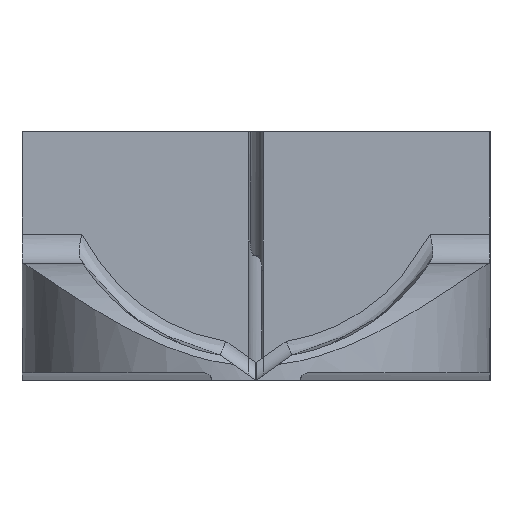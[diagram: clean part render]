
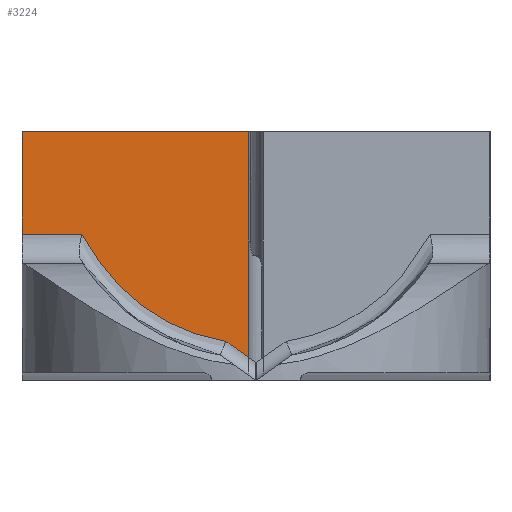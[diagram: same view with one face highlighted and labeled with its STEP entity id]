
A CAD part, left-side view. The second image highlights one B-rep face of the part: STEP entity #3224.
In plain terms, the highlighted planar face has unit normal (1, 0, 0).
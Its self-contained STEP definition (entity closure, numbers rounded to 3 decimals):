
#17 = CARTESIAN_POINT ( 'NONE',  ( -49., -2.2, 1.7 ) ) ;
#132 = EDGE_CURVE ( 'NONE', #5312, #2388, #5518, .T. ) ;
#259 = CARTESIAN_POINT ( 'NONE',  ( -49., 2.058, -14.338 ) ) ;
#364 = CARTESIAN_POINT ( 'NONE',  ( -49., 6.076, -13.041 ) ) ;
#387 = CARTESIAN_POINT ( 'NONE',  ( -49., 10.575, -9.062 ) ) ;
#403 = CARTESIAN_POINT ( 'NONE',  ( -49., 11.392, -7.811 ) ) ;
#631 = ORIENTED_EDGE ( 'NONE', *, *, #3230, .T. ) ;
#658 = LINE ( 'NONE', #2469, #4783 ) ;
#881 = CARTESIAN_POINT ( 'NONE',  ( -49., 8.258, -11.554 ) ) ;
#902 = CARTESIAN_POINT ( 'NONE',  ( -49., 10.649, -8.957 ) ) ;
#926 = CARTESIAN_POINT ( 'NONE',  ( -49., 11.557, -7.549 ) ) ;
#973 = EDGE_CURVE ( 'NONE', #1426, #2654, #6237, .T. ) ;
#979 = VERTEX_POINT ( 'NONE', #2004 ) ;
#1075 = DIRECTION ( 'NONE',  ( 1., 0., 0. ) ) ;
#1257 = EDGE_CURVE ( 'NONE', #979, #2654, #3271, .T. ) ;
#1381 = CARTESIAN_POINT ( 'NONE',  ( -49., 2.755, -14.205 ) ) ;
#1407 = CARTESIAN_POINT ( 'NONE',  ( -49., 9.41, -10.474 ) ) ;
#1426 = VERTEX_POINT ( 'NONE', #4905 ) ;
#1431 = CARTESIAN_POINT ( 'NONE',  ( -49., 10.887, -8.604 ) ) ;
#1451 = CARTESIAN_POINT ( 'NONE',  ( -49., 11.654, -7.397 ) ) ;
#1585 = CARTESIAN_POINT ( 'NONE',  ( -49., 0.5, -15.429 ) ) ;
#1709 = CARTESIAN_POINT ( 'NONE',  ( -49., 16., -7. ) ) ;
#1869 = CARTESIAN_POINT ( 'NONE',  ( -49., 0., 0. ) ) ;
#1920 = CARTESIAN_POINT ( 'NONE',  ( -49., 2.817, -14.191 ) ) ;
#1944 = CARTESIAN_POINT ( 'NONE',  ( -49., 9.938, -9.885 ) ) ;
#1960 = CARTESIAN_POINT ( 'NONE',  ( -49., 10.992, -8.441 ) ) ;
#1982 = CARTESIAN_POINT ( 'NONE',  ( -49., 11.678, -7.36 ) ) ;
#2004 = CARTESIAN_POINT ( 'NONE',  ( -49., 0.5, -15.429 ) ) ;
#2091 = CARTESIAN_POINT ( 'NONE',  ( -49., 0.5, -22.45 ) ) ;
#2102 = PLANE ( 'NONE',  #6508 ) ;
#2200 = VERTEX_POINT ( 'NONE', #6517 ) ;
#2311 = VECTOR ( 'NONE', #4528, 1000. ) ;
#2388 = VERTEX_POINT ( 'NONE', #1709 ) ;
#2395 = EDGE_CURVE ( 'NONE', #1426, #2388, #658, .T. ) ;
#2454 = CARTESIAN_POINT ( 'NONE',  ( -49., 2.833, -14.188 ) ) ;
#2469 = CARTESIAN_POINT ( 'NONE',  ( -49., 16., -6.94 ) ) ;
#2481 = CARTESIAN_POINT ( 'NONE',  ( -49., 10.312, -9.417 ) ) ;
#2506 = CARTESIAN_POINT ( 'NONE',  ( -49., 11.018, -8.401 ) ) ;
#2524 = CARTESIAN_POINT ( 'NONE',  ( -49., 11.684, -7.351 ) ) ;
#2552 = CARTESIAN_POINT ( 'NONE',  ( -49., 11.906, -7. ) ) ;
#2632 = ORIENTED_EDGE ( 'NONE', *, *, #4638, .T. ) ;
#2654 = VERTEX_POINT ( 'NONE', #5477 ) ;
#2927 = DIRECTION ( 'NONE',  ( 0., 0., 1. ) ) ;
#2966 = VECTOR ( 'NONE', #5690, 1000. ) ;
#2979 = CARTESIAN_POINT ( 'NONE',  ( -49., 3.357, -14.062 ) ) ;
#3001 = CARTESIAN_POINT ( 'NONE',  ( -49., 10.518, -9.141 ) ) ;
#3017 = CARTESIAN_POINT ( 'NONE',  ( -49., 11.101, -8.269 ) ) ;
#3038 = CARTESIAN_POINT ( 'NONE',  ( -49., 11.711, -7.308 ) ) ;
#3177 = ORIENTED_EDGE ( 'NONE', *, *, #1257, .F. ) ;
#3224 = ADVANCED_FACE ( 'NONE', ( #3268 ), #2102, .T. ) ;
#3230 = EDGE_CURVE ( 'NONE', #979, #2200, #5499, .T. ) ;
#3268 = FACE_OUTER_BOUND ( 'NONE', #6463, .T. ) ;
#3271 = LINE ( 'NONE', #2091, #4474 ) ;
#3385 = CARTESIAN_POINT ( 'NONE',  ( -49., 2.225, -14.309 ) ) ;
#3478 = CARTESIAN_POINT ( 'NONE',  ( -49., 4.613, -13.666 ) ) ;
#3497 = CARTESIAN_POINT ( 'NONE',  ( -49., 10.565, -9.075 ) ) ;
#3523 = CARTESIAN_POINT ( 'NONE',  ( -49., 11.32, -7.925 ) ) ;
#3546 = CARTESIAN_POINT ( 'NONE',  ( -49., 11.906, -7. ) ) ;
#3786 = CARTESIAN_POINT ( 'NONE',  ( -49., 2.448, -14.268 ) ) ;
#3814 = B_SPLINE_CURVE_WITH_KNOTS ( 'NONE', 3,
 ( #259, #3385, #3786, #4482, #1381, #4991, #1920, #5500, #2454, #6041, #2979, #6548, #3478, #364, #3980, #881, #4507, #1407, #5016, #1944, #5523, #2481, #6064, #3001, #6569, #3497, #387, #3997, #902, #4527, #1431, #5035, #1960, #5546, #2506, #6077, #3017, #6588, #3523, #403, #4017, #926, #4547, #1451, #5062, #1982, #5564, #2524, #6099, #3038, #6611, #3546 ),
 .UNSPECIFIED., .F., .F.,
 ( 4, 1, 1, 1, 1, 2, 2, 2, 2, 2, 1, 2, 2, 1, 1, 1, 1, 2, 2, 1, 1, 1, 1, 2, 2, 2, 2, 1, 1, 1, 1, 1, 2, 2, 4 ),
 ( 0., 0.031, 0.047, 0.055, 0.059, 0.061, 0.063, 0.125, 0.25, 0.5, 0.625, 0.687, 0.75, 0.781, 0.797, 0.805, 0.809, 0.811, 0.812, 0.844, 0.859, 0.867, 0.871, 0.873, 0.875, 0.906, 0.938, 0.953, 0.961, 0.965, 0.967, 0.968, 0.968, 0.969, 1. ),
 .UNSPECIFIED. ) ;
#3980 = CARTESIAN_POINT ( 'NONE',  ( -49., 6.988, -12.513 ) ) ;
#3997 = CARTESIAN_POINT ( 'NONE',  ( -49., 10.58, -9.054 ) ) ;
#4017 = CARTESIAN_POINT ( 'NONE',  ( -49., 11.502, -7.637 ) ) ;
#4440 = ORIENTED_EDGE ( 'NONE', *, *, #2395, .F. ) ;
#4474 = VECTOR ( 'NONE', #2927, 1000. ) ;
#4482 = CARTESIAN_POINT ( 'NONE',  ( -49., 2.66, -14.225 ) ) ;
#4507 = CARTESIAN_POINT ( 'NONE',  ( -49., 8.859, -11.04 ) ) ;
#4527 = CARTESIAN_POINT ( 'NONE',  ( -49., 10.754, -8.806 ) ) ;
#4528 = DIRECTION ( 'NONE',  ( 0., -1., 0. ) ) ;
#4547 = CARTESIAN_POINT ( 'NONE',  ( -49., 11.621, -7.448 ) ) ;
#4638 = EDGE_CURVE ( 'NONE', #2200, #5312, #3814, .T. ) ;
#4676 = DIRECTION ( 'NONE',  ( 0., 0., -1. ) ) ;
#4783 = VECTOR ( 'NONE', #5840, 1000. ) ;
#4905 = CARTESIAN_POINT ( 'NONE',  ( -49., 16., 0. ) ) ;
#4991 = CARTESIAN_POINT ( 'NONE',  ( -49., 2.799, -14.195 ) ) ;
#4999 = ORIENTED_EDGE ( 'NONE', *, *, #973, .T. ) ;
#5016 = CARTESIAN_POINT ( 'NONE',  ( -49., 9.766, -10.084 ) ) ;
#5035 = CARTESIAN_POINT ( 'NONE',  ( -49., 10.957, -8.496 ) ) ;
#5062 = CARTESIAN_POINT ( 'NONE',  ( -49., 11.67, -7.372 ) ) ;
#5092 = CARTESIAN_POINT ( 'NONE',  ( -49., 8., -7. ) ) ;
#5312 = VERTEX_POINT ( 'NONE', #2552 ) ;
#5358 = VECTOR ( 'NONE', #5729, 1000. ) ;
#5477 = CARTESIAN_POINT ( 'NONE',  ( -49., 0.5, 0. ) ) ;
#5499 = LINE ( 'NONE', #1585, #2966 ) ;
#5500 = CARTESIAN_POINT ( 'NONE',  ( -49., 2.829, -14.189 ) ) ;
#5518 = LINE ( 'NONE', #5092, #5358 ) ;
#5523 = CARTESIAN_POINT ( 'NONE',  ( -49., 10.19, -9.574 ) ) ;
#5546 = CARTESIAN_POINT ( 'NONE',  ( -49., 11.007, -8.417 ) ) ;
#5564 = CARTESIAN_POINT ( 'NONE',  ( -49., 11.681, -7.354 ) ) ;
#5690 = DIRECTION ( 'NONE',  ( 0., 0.819, 0.574 ) ) ;
#5729 = DIRECTION ( 'NONE',  ( 0., 1., 0. ) ) ;
#5840 = DIRECTION ( 'NONE',  ( 0., 0., -1. ) ) ;
#6041 = CARTESIAN_POINT ( 'NONE',  ( -49., 3.098, -14.128 ) ) ;
#6064 = CARTESIAN_POINT ( 'NONE',  ( -49., 10.45, -9.233 ) ) ;
#6077 = CARTESIAN_POINT ( 'NONE',  ( -49., 11.024, -8.391 ) ) ;
#6099 = CARTESIAN_POINT ( 'NONE',  ( -49., 11.686, -7.348 ) ) ;
#6237 = LINE ( 'NONE', #1869, #2311 ) ;
#6463 = EDGE_LOOP ( 'NONE', ( #3177, #631, #2632, #6479, #4440, #4999 ) ) ;
#6479 = ORIENTED_EDGE ( 'NONE', *, *, #132, .T. ) ;
#6508 = AXIS2_PLACEMENT_3D ( 'NONE', #17, #1075, #4676 ) ;
#6517 = CARTESIAN_POINT ( 'NONE',  ( -49., 2.058, -14.338 ) ) ;
#6548 = CARTESIAN_POINT ( 'NONE',  ( -49., 4.117, -13.842 ) ) ;
#6569 = CARTESIAN_POINT ( 'NONE',  ( -49., 10.551, -9.095 ) ) ;
#6588 = CARTESIAN_POINT ( 'NONE',  ( -49., 11.174, -8.155 ) ) ;
#6611 = CARTESIAN_POINT ( 'NONE',  ( -49., 11.784, -7.192 ) ) ;
